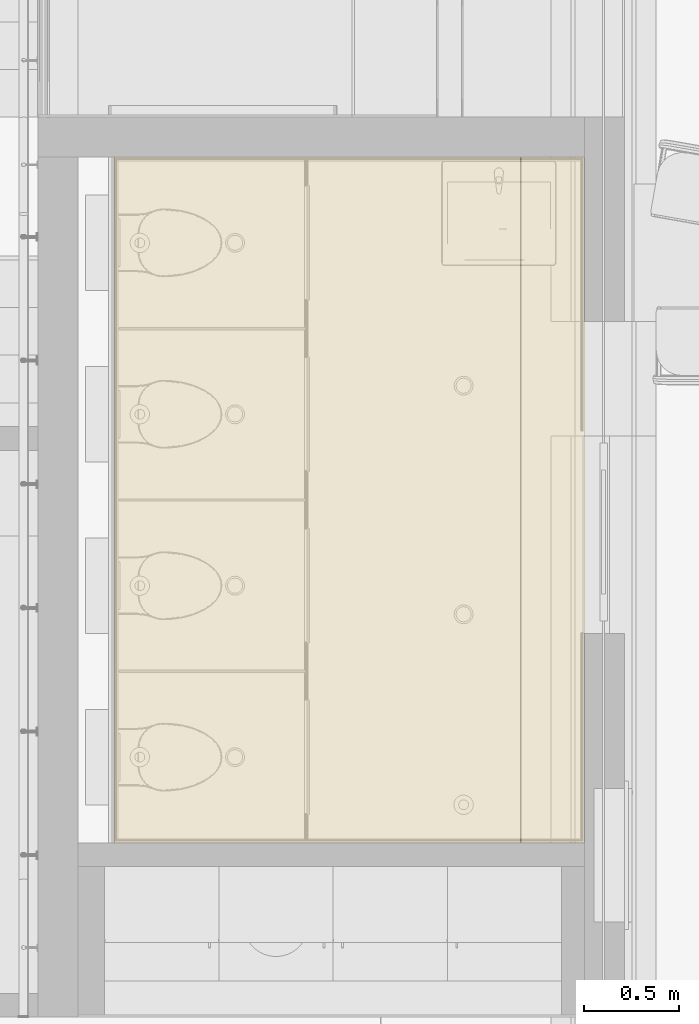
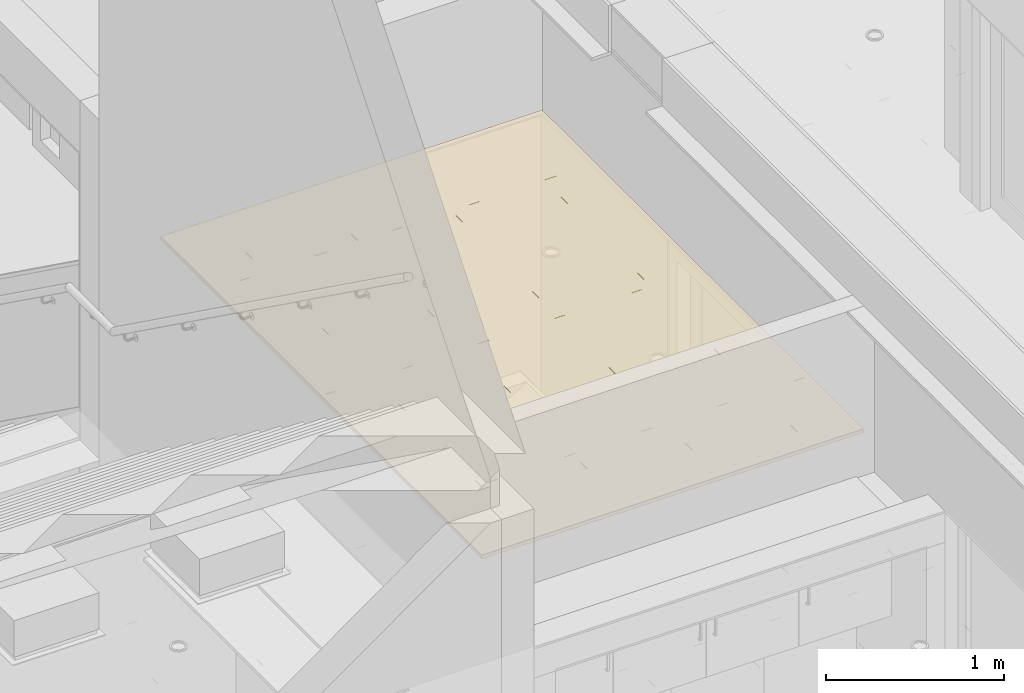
# One storey, part 171 of 347: 1 covering.
"""IFC2X3 building model written with IfcOpenShell, lengths in millimetres."""

from ifc_helpers import new_model, entity, si_unit, converted_unit, derived_unit, money_unit, direction, frame, origin_with_axes, place, context, subcontext, project, spatial, faceted_brep, type_object, element, save


model = new_model("IFC2X3")

# Units and contexts
model_context = context("Model", 3, precision=0.01, world=origin_with_axes(), true_north=direction((0.0, 1.0)))
plan_context = context("Plan", 3, precision=0.01, world=origin_with_axes(), true_north=direction((0.0, 1.0)))
body_context = subcontext(model_context, "Body", "Model", "MODEL_VIEW")
ifc_project = project(units=[si_unit("LENGTHUNIT", "METRE", prefix="MILLI"), si_unit("AREAUNIT", "SQUARE_METRE"), si_unit("VOLUMEUNIT", "CUBIC_METRE"), converted_unit("PLANEANGLEUNIT", "DEGREE", entity("IfcPlaneAngleMeasure", 0.0174532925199), si_unit("PLANEANGLEUNIT", "RADIAN"), dimensions=[0, 0, 0, 0, 0, 0, 0]), money_unit("EUR"), converted_unit("TIMEUNIT", "Year", entity("IfcTimeMeasure", 31556926.0), si_unit("TIMEUNIT", "SECOND"), dimensions=[0, 0, 1, 0, 0, 0, 0]), si_unit("MASSUNIT", "GRAM", prefix="KILO"), si_unit("THERMODYNAMICTEMPERATUREUNIT", "DEGREE_CELSIUS"), si_unit("LUMINOUSINTENSITYUNIT", "LUMEN"), si_unit("ENERGYUNIT", "JOULE", prefix="MEGA"), derived_unit("THERMALCONDUCTANCEUNIT", [(si_unit("POWERUNIT", "WATT"), 1), (si_unit("LENGTHUNIT", "METRE"), -1), (si_unit("THERMODYNAMICTEMPERATUREUNIT", "KELVIN"), -1)]), derived_unit("SPECIFICHEATCAPACITYUNIT", [(si_unit("ENERGYUNIT", "JOULE"), 1), (si_unit("MASSUNIT", "GRAM", prefix="KILO"), -1), (si_unit("THERMODYNAMICTEMPERATUREUNIT", "KELVIN"), -1)]), derived_unit("MASSDENSITYUNIT", [(si_unit("MASSUNIT", "GRAM", prefix="KILO"), 1), (si_unit("VOLUMEUNIT", "CUBIC_METRE"), -1)])], contexts=[model_context, plan_context])

# Site, building, storey
site_placement = place(None, origin_with_axes())
site = spatial("IfcSite", under=ifc_project, at=site_placement, Name="Site", CompositionType="ELEMENT")
building_placement = place(site_placement, origin_with_axes())
building = spatial("IfcBuilding", under=site, at=building_placement, Name="Naam gebouw", CompositionType="ELEMENT")
storey_placement = place(building_placement, origin_with_axes())
storey = spatial("IfcBuildingStorey", under=building, at=storey_placement, Name="begane grond", CompositionType="ELEMENT", Elevation=0.0)

# Covering
covering_type = type_object("IfcCoveringType", Name="Ceiling Editor INT_v2.01", PredefinedType="CEILING")
covering_placement = place(storey_placement, frame((41975.0, 30989.9999277, 2600.0), z_axis=(0.0, 0.0, 1.0), x_axis=(1.0, 0.0, 0.0)))
element("IfcCovering", 1, at=covering_placement, inside=storey, type_object=covering_type, Name="45 Plafondafwerkingen_77 garderobe", PredefinedType="CEILING", context=body_context, shape_type="Brep", body=[
    faceted_brep([(0.0, 0.0, 20.0), (334.9, 0.0, 20.0), (334.9, 599.89982335, 20.0), (0.0, 599.89982335, 20.0), (0.0, 0.0, 0.0), (334.9, 0.0, 0.0), (334.9, 599.89982335, 0.0), (0.0, 599.89982335, 0.0)], [[[0, 1, 2, 3]], [[1, 0, 4, 5]], [[1, 5, 6, 2]], [[7, 3, 2, 6]], [[3, 7, 4, 0]], [[4, 7, 6, 5]]]),
    faceted_brep([(0.0, 1799.89982335, 0.0), (0.0, 1799.89982335, 20.0), (334.9, 1799.89982335, 20.0), (334.9, 1799.89982335, 0.0), (0.0, 900.000018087, 0.0), (0.0, 900.000018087, 20.0), (0.0, 600.09982335, 20.0), (334.9, 600.09982335, 20.0), (334.9, 600.09982335, 0.0), (0.0, 600.09982335, 0.0)], [[[0, 1, 2, 3]], [[1, 0, 4, 5]], [[5, 6, 7, 2, 1]], [[7, 8, 3, 2]], [[4, 0, 3, 8, 9]], [[6, 5, 4, 9]], [[6, 9, 8, 7]]]),
    faceted_brep([(0.0, 2999.89982335, 0.0), (0.0, 2999.89982335, 20.0), (334.9, 2999.89982335, 20.0), (334.9, 2999.89982335, 0.0), (0.0, 2700.00005426, 0.0), (0.0, 2700.00005426, 20.0), (0.0, 1800.09982335, 20.0), (334.9, 1800.09982335, 20.0), (334.9, 1800.09982335, 0.0), (0.0, 1800.09982335, 0.0)], [[[0, 1, 2, 3]], [[1, 0, 4, 5]], [[5, 6, 7, 2, 1]], [[7, 8, 3, 2]], [[4, 0, 3, 8, 9]], [[6, 5, 4, 9]], [[6, 9, 8, 7]]]),
    faceted_brep([(334.9, 3600.00007235, 0.0), (334.9, 3600.00007235, 20.0), (334.9, 3000.09982335, 20.0), (334.9, 3000.09982335, 0.0), (0.0, 3600.00007235, 0.0), (0.0, 3600.00007235, 20.0), (0.0, 3000.09982335, 20.0), (0.0, 3000.09982335, 0.0)], [[[0, 1, 2, 3]], [[1, 0, 4, 5]], [[5, 6, 2, 1]], [[6, 7, 3, 2]], [[4, 0, 3, 7]], [[6, 5, 4, 7]]]),
    faceted_brep([(617.5, 0.0, 20.0), (934.9, 0.0, 20.0), (934.9, 599.89982335, 20.0), (335.1, 599.89982335, 20.0), (335.1, 0.0, 20.0), (617.5, 0.0, 0.0), (934.9, 0.0, 0.0), (934.9, 599.89982335, 0.0), (335.1, 599.89982335, 0.0), (335.1, 0.0, 0.0)], [[[0, 1, 2, 3, 4]], [[1, 0, 5, 6]], [[1, 6, 7, 2]], [[2, 7, 8, 3]], [[9, 4, 3, 8]], [[0, 4, 9, 5]], [[5, 9, 8, 7, 6]]]),
    faceted_brep([(934.9, 600.09982335, 20.0), (934.9, 600.09982335, 0.0), (934.9, 1799.89982335, 0.0), (934.9, 1799.89982335, 20.0), (335.1, 600.09982335, 20.0), (335.1, 600.09982335, 0.0), (335.1, 1799.89982335, 0.0), (335.1, 1799.89982335, 20.0)], [[[0, 1, 2, 3]], [[4, 5, 1, 0]], [[2, 1, 5, 6]], [[3, 2, 6, 7]], [[4, 0, 3, 7]], [[7, 6, 5, 4]]]),
    faceted_brep([(934.9, 1800.09982335, 20.0), (934.9, 1800.09982335, 0.0), (934.9, 2999.89982335, 0.0), (934.9, 2999.89982335, 20.0), (335.1, 1800.09982335, 20.0), (335.1, 1800.09982335, 0.0), (335.1, 2999.89982335, 0.0), (335.1, 2999.89982335, 20.0)], [[[0, 1, 2, 3]], [[4, 5, 1, 0]], [[2, 1, 5, 6]], [[3, 2, 6, 7]], [[4, 0, 3, 7]], [[7, 6, 5, 4]]]),
    faceted_brep([(934.9, 3600.00007235, 0.0), (934.9, 3600.00007235, 20.0), (934.9, 3000.09982335, 20.0), (934.9, 3000.09982335, 0.0), (617.5, 3600.00007235, 0.0), (617.5, 3600.00007235, 20.0), (335.1, 3600.00007235, 20.0), (335.1, 3000.09982335, 20.0), (335.1, 3000.09982335, 0.0), (335.1, 3600.00007235, 0.0)], [[[0, 1, 2, 3]], [[1, 0, 4, 5]], [[5, 6, 7, 2, 1]], [[7, 8, 3, 2]], [[4, 0, 3, 8, 9]], [[6, 5, 4, 9]], [[6, 9, 8, 7]]]),
    faceted_brep([(1235.0, 0.0, 20.0), (1534.9, 0.0, 20.0), (1534.9, 599.89982335, 20.0), (935.1, 599.89982335, 20.0), (935.1, 0.0, 20.0), (1235.0, 0.0, 0.0), (1534.9, 0.0, 0.0), (1534.9, 599.89982335, 0.0), (935.1, 599.89982335, 0.0), (935.1, 0.0, 0.0)], [[[0, 1, 2, 3, 4]], [[1, 0, 5, 6]], [[1, 6, 7, 2]], [[2, 7, 8, 3]], [[9, 4, 3, 8]], [[0, 4, 9, 5]], [[5, 9, 8, 7, 6]]]),
    faceted_brep([(1534.9, 600.09982335, 20.0), (1534.9, 600.09982335, 0.0), (1534.9, 1799.89982335, 0.0), (1534.9, 1799.89982335, 20.0), (935.1, 600.09982335, 20.0), (935.1, 600.09982335, 0.0), (935.1, 1799.89982335, 0.0), (935.1, 1799.89982335, 20.0)], [[[0, 1, 2, 3]], [[4, 5, 1, 0]], [[2, 1, 5, 6]], [[3, 2, 6, 7]], [[4, 0, 3, 7]], [[7, 6, 5, 4]]]),
    faceted_brep([(1534.9, 1800.09982335, 20.0), (1534.9, 1800.09982335, 0.0), (1534.9, 2999.89982335, 0.0), (1534.9, 2999.89982335, 20.0), (935.1, 1800.09982335, 20.0), (935.1, 1800.09982335, 0.0), (935.1, 2999.89982335, 0.0), (935.1, 2999.89982335, 20.0)], [[[0, 1, 2, 3]], [[4, 5, 1, 0]], [[2, 1, 5, 6]], [[3, 2, 6, 7]], [[4, 0, 3, 7]], [[7, 6, 5, 4]]]),
    faceted_brep([(1534.9, 3600.00007235, 0.0), (1534.9, 3600.00007235, 20.0), (1534.9, 3000.09982335, 20.0), (1534.9, 3000.09982335, 0.0), (1235.0, 3600.00007235, 0.0), (1235.0, 3600.00007235, 20.0), (935.1, 3600.00007235, 20.0), (935.1, 3000.09982335, 20.0), (935.1, 3000.09982335, 0.0), (935.1, 3600.00007235, 0.0)], [[[0, 1, 2, 3]], [[1, 0, 4, 5]], [[5, 6, 7, 2, 1]], [[7, 8, 3, 2]], [[4, 0, 3, 8, 9]], [[6, 5, 4, 9]], [[6, 9, 8, 7]]]),
    faceted_brep([(1852.5, 0.0, 20.0), (2134.9, 0.0, 20.0), (2134.9, 599.89982335, 20.0), (1535.1, 599.89982335, 20.0), (1535.1, 0.0, 20.0), (1852.5, 0.0, 0.0), (2134.9, 0.0, 0.0), (2134.9, 599.89982335, 0.0), (1535.1, 599.89982335, 0.0), (1535.1, 0.0, 0.0)], [[[0, 1, 2, 3, 4]], [[1, 0, 5, 6]], [[1, 6, 7, 2]], [[2, 7, 8, 3]], [[9, 4, 3, 8]], [[0, 4, 9, 5]], [[5, 9, 8, 7, 6]]]),
    faceted_brep([(2134.9, 600.09982335, 20.0), (2134.9, 600.09982335, 0.0), (2134.9, 1799.89982335, 0.0), (2134.9, 1799.89982335, 20.0), (1535.1, 600.09982335, 20.0), (1535.1, 600.09982335, 0.0), (1535.1, 1799.89982335, 0.0), (1535.1, 1799.89982335, 20.0)], [[[0, 1, 2, 3]], [[4, 5, 1, 0]], [[2, 1, 5, 6]], [[3, 2, 6, 7]], [[4, 0, 3, 7]], [[7, 6, 5, 4]]]),
    faceted_brep([(2134.9, 1800.09982335, 20.0), (2134.9, 1800.09982335, 0.0), (2134.9, 2999.89982335, 0.0), (2134.9, 2999.89982335, 20.0), (1535.1, 1800.09982335, 20.0), (1535.1, 1800.09982335, 0.0), (1535.1, 2999.89982335, 0.0), (1535.1, 2999.89982335, 20.0)], [[[0, 1, 2, 3]], [[4, 5, 1, 0]], [[2, 1, 5, 6]], [[3, 2, 6, 7]], [[4, 0, 3, 7]], [[7, 6, 5, 4]]]),
    faceted_brep([(2134.9, 3600.00007235, 0.0), (2134.9, 3600.00007235, 20.0), (2134.9, 3000.09982335, 20.0), (2134.9, 3000.09982335, 0.0), (1852.5, 3600.00007235, 0.0), (1852.5, 3600.00007235, 20.0), (1535.1, 3600.00007235, 20.0), (1535.1, 3000.09982335, 20.0), (1535.1, 3000.09982335, 0.0), (1535.1, 3600.00007235, 0.0)], [[[0, 1, 2, 3]], [[1, 0, 4, 5]], [[5, 6, 7, 2, 1]], [[7, 8, 3, 2]], [[4, 0, 3, 8, 9]], [[6, 5, 4, 9]], [[6, 9, 8, 7]]]),
    faceted_brep([(2470.0, 0.0, 20.0), (2470.0, 599.89982335, 20.0), (2135.1, 599.89982335, 20.0), (2135.1, 0.0, 20.0), (2470.0, 0.0, 0.0), (2470.0, 599.89982335, 0.0), (2135.1, 599.89982335, 0.0), (2135.1, 0.0, 0.0)], [[[0, 1, 2, 3]], [[1, 0, 4, 5]], [[1, 5, 6, 2]], [[7, 3, 2, 6]], [[0, 3, 7, 4]], [[4, 7, 6, 5]]]),
    faceted_brep([(2470.0, 900.000018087, 20.0), (2470.0, 1799.89982335, 20.0), (2135.1, 1799.89982335, 20.0), (2135.1, 600.09982335, 20.0), (2470.0, 600.09982335, 20.0), (2470.0, 900.000018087, 0.0), (2470.0, 1799.89982335, 0.0), (2135.1, 1799.89982335, 0.0), (2135.1, 600.09982335, 0.0), (2470.0, 600.09982335, 0.0)], [[[0, 1, 2, 3, 4]], [[1, 0, 5, 6]], [[1, 6, 7, 2]], [[2, 7, 8, 3]], [[9, 4, 3, 8]], [[0, 4, 9, 5]], [[5, 9, 8, 7, 6]]]),
    faceted_brep([(2470.0, 2700.00005426, 20.0), (2470.0, 2999.89982335, 20.0), (2135.1, 2999.89982335, 20.0), (2135.1, 1800.09982335, 20.0), (2470.0, 1800.09982335, 20.0), (2470.0, 2700.00005426, 0.0), (2470.0, 2999.89982335, 0.0), (2135.1, 2999.89982335, 0.0), (2135.1, 1800.09982335, 0.0), (2470.0, 1800.09982335, 0.0)], [[[0, 1, 2, 3, 4]], [[1, 0, 5, 6]], [[1, 6, 7, 2]], [[2, 7, 8, 3]], [[9, 4, 3, 8]], [[0, 4, 9, 5]], [[5, 9, 8, 7, 6]]]),
    faceted_brep([(2470.0, 3000.09982335, 20.0), (2470.0, 3600.00007235, 20.0), (2135.1, 3600.00007235, 20.0), (2135.1, 3000.09982335, 20.0), (2470.0, 3000.09982335, 0.0), (2470.0, 3600.00007235, 0.0), (2135.1, 3600.00007235, 0.0), (2135.1, 3000.09982335, 0.0)], [[[0, 1, 2, 3]], [[1, 0, 4, 5]], [[2, 1, 5, 6]], [[2, 6, 7, 3]], [[4, 0, 3, 7]], [[5, 4, 7, 6]]]),
    faceted_brep([(2470.0, 0.0, 0.0), (2470.0, 0.0, -5.0), (2470.0, 587.49982335, -5.0), (2470.0, 612.49982335, -5.0), (2470.0, 1787.49982335, -5.0), (2470.0, 1800.00003617, -5.0), (2470.0, 1800.00003617, 0.0), (2470.0, 1787.49982335, 0.0), (2470.0, 612.49982335, 0.0), (2470.0, 587.49982335, 0.0), (947.5, 0.0, -5.0), (1522.5, 0.0, -5.0), (1547.5, 0.0, -5.0), (2122.5, 0.0, -5.0), (2147.5, 0.0, -5.0), (2147.5, 0.0, 0.0), (2122.5, 0.0, 0.0), (1547.5, 0.0, 0.0), (1522.5, 0.0, 0.0), (947.5, 0.0, 0.0), (922.5, 0.0, 0.0), (347.5, 0.0, 0.0), (322.5, 0.0, 0.0), (0.0, 0.0, 0.0), (0.0, 0.0, -5.0), (322.5, 0.0, -5.0), (347.5, 0.0, -5.0), (922.5, 0.0, -5.0), (0.0, 587.49982335, -5.0), (0.0, 612.49982335, -5.0), (0.0, 1787.49982335, -5.0), (0.0, 1800.00003617, -5.0), (0.0, 1812.49982335, -5.0), (0.0, 2987.49982335, -5.0), (0.0, 3012.49982335, -5.0), (0.0, 3600.00007235, -5.0), (322.5, 3600.00007235, -5.0), (347.5, 3600.00007235, -5.0), (922.5, 3600.00007235, -5.0), (947.5, 3600.00007235, -5.0), (1522.5, 3600.00007235, -5.0), (1547.5, 3600.00007235, -5.0), (2122.5, 3600.00007235, -5.0), (2147.5, 3600.00007235, -5.0), (2470.0, 3600.00007235, -5.0), (2470.0, 3012.49982335, -5.0), (2470.0, 2987.49982335, -5.0), (2470.0, 1812.49982335, -5.0), (922.5, 612.49982335, -5.0), (922.5, 1787.49982335, -5.0), (347.5, 1787.49982335, -5.0), (347.5, 612.49982335, -5.0), (947.5, 1812.49982335, -5.0), (1522.5, 1812.49982335, -5.0), (1522.5, 2987.49982335, -5.0), (947.5, 2987.49982335, -5.0), (1547.5, 1812.49982335, -5.0), (2122.5, 1812.49982335, -5.0), (2122.5, 2987.49982335, -5.0), (1547.5, 2987.49982335, -5.0), (347.5, 1812.49982335, -5.0), (922.5, 1812.49982335, -5.0), (922.5, 2987.49982335, -5.0), (347.5, 2987.49982335, -5.0), (1522.5, 612.49982335, -5.0), (1522.5, 1787.49982335, -5.0), (947.5, 1787.49982335, -5.0), (947.5, 612.49982335, -5.0), (2122.5, 612.49982335, -5.0), (2122.5, 1787.49982335, -5.0), (1547.5, 1787.49982335, -5.0), (1547.5, 612.49982335, -5.0), (25.0, 587.49982335, -5.0), (25.0, 25.0, -5.0), (322.5, 25.0, -5.0), (322.5, 587.49982335, -5.0), (25.0, 1787.49982335, -5.0), (25.0, 612.49982335, -5.0), (322.5, 612.49982335, -5.0), (322.5, 1787.49982335, -5.0), (25.0, 2987.49982335, -5.0), (25.0, 1812.49982335, -5.0), (322.5, 1812.49982335, -5.0), (322.5, 2987.49982335, -5.0), (322.5, 3575.00007235, -5.0), (25.0, 3575.00007235, -5.0), (25.0, 3012.49982335, -5.0), (322.5, 3012.49982335, -5.0), (922.5, 3575.00007235, -5.0), (347.5, 3575.00007235, -5.0), (347.5, 3012.49982335, -5.0), (922.5, 3012.49982335, -5.0), (1522.5, 3575.00007235, -5.0), (947.5, 3575.00007235, -5.0), (947.5, 3012.49982335, -5.0), (1522.5, 3012.49982335, -5.0), (2122.5, 3575.00007235, -5.0), (1547.5, 3575.00007235, -5.0), (1547.5, 3012.49982335, -5.0), (2122.5, 3012.49982335, -5.0), (2445.0, 3575.00007235, -5.0), (2147.5, 3575.00007235, -5.0), (2147.5, 3012.49982335, -5.0), (2445.0, 3012.49982335, -5.0), (2445.0, 2987.49982335, -5.0), (2147.5, 2987.49982335, -5.0), (2147.5, 1812.49982335, -5.0), (2445.0, 1812.49982335, -5.0), (2445.0, 1787.49982335, -5.0), (2147.5, 1787.49982335, -5.0), (2147.5, 612.49982335, -5.0), (2445.0, 612.49982335, -5.0), (2445.0, 25.0, -5.0), (2445.0, 587.49982335, -5.0), (2147.5, 587.49982335, -5.0), (2147.5, 25.0, -5.0), (2122.5, 25.0, -5.0), (2122.5, 587.49982335, -5.0), (1547.5, 587.49982335, -5.0), (1547.5, 25.0, -5.0), (922.5, 25.0, -5.0), (922.5, 587.49982335, -5.0), (347.5, 587.49982335, -5.0), (347.5, 25.0, -5.0), (1522.5, 25.0, -5.0), (1522.5, 587.49982335, -5.0), (947.5, 587.49982335, -5.0), (947.5, 25.0, -5.0), (2470.0, 3600.00007235, 0.0), (2470.0, 3012.49982335, 0.0), (2470.0, 2987.49982335, 0.0), (2470.0, 1812.49982335, 0.0), (2147.5, 3600.00007235, 0.0), (2122.5, 3600.00007235, 0.0), (1547.5, 3600.00007235, 0.0), (1522.5, 3600.00007235, 0.0), (947.5, 3600.00007235, 0.0), (922.5, 3600.00007235, 0.0), (347.5, 3600.00007235, 0.0), (322.5, 3600.00007235, 0.0), (0.0, 3600.00007235, 0.0), (0.0, 3012.49982335, 0.0), (0.0, 2987.49982335, 0.0), (0.0, 1812.49982335, 0.0), (0.0, 1800.00003617, 0.0), (0.0, 1787.49982335, 0.0), (0.0, 612.49982335, 0.0), (0.0, 587.49982335, 0.0), (347.5, 1787.49982335, 0.0), (922.5, 1787.49982335, 0.0), (922.5, 612.49982335, 0.0), (347.5, 612.49982335, 0.0), (1522.5, 2987.49982335, 0.0), (1522.5, 1812.49982335, 0.0), (947.5, 1812.49982335, 0.0), (947.5, 2987.49982335, 0.0), (1547.5, 1787.49982335, 0.0), (2122.5, 1787.49982335, 0.0), (2122.5, 612.49982335, 0.0), (1547.5, 612.49982335, 0.0), (922.5, 2987.49982335, 0.0), (922.5, 1812.49982335, 0.0), (347.5, 1812.49982335, 0.0), (347.5, 2987.49982335, 0.0), (947.5, 1787.49982335, 0.0), (1522.5, 1787.49982335, 0.0), (1522.5, 612.49982335, 0.0), (947.5, 612.49982335, 0.0), (2122.5, 2987.49982335, 0.0), (2122.5, 1812.49982335, 0.0), (1547.5, 1812.49982335, 0.0), (1547.5, 2987.49982335, 0.0), (25.0, 587.49982335, 0.0), (322.5, 587.49982335, 0.0), (322.5, 25.0, 0.0), (25.0, 25.0, 0.0), (25.0, 1787.49982335, 0.0), (322.5, 1787.49982335, 0.0), (322.5, 612.49982335, 0.0), (25.0, 612.49982335, 0.0), (25.0, 2987.49982335, 0.0), (322.5, 2987.49982335, 0.0), (322.5, 1812.49982335, 0.0), (25.0, 1812.49982335, 0.0), (322.5, 3575.00007235, 0.0), (322.5, 3012.49982335, 0.0), (25.0, 3012.49982335, 0.0), (25.0, 3575.00007235, 0.0), (922.5, 3575.00007235, 0.0), (922.5, 3012.49982335, 0.0), (347.5, 3012.49982335, 0.0), (347.5, 3575.00007235, 0.0), (1522.5, 3575.00007235, 0.0), (1522.5, 3012.49982335, 0.0), (947.5, 3012.49982335, 0.0), (947.5, 3575.00007235, 0.0), (2122.5, 3575.00007235, 0.0), (2122.5, 3012.49982335, 0.0), (1547.5, 3012.49982335, 0.0), (1547.5, 3575.00007235, 0.0), (2445.0, 3575.00007235, 0.0), (2445.0, 3012.49982335, 0.0), (2147.5, 3012.49982335, 0.0), (2147.5, 3575.00007235, 0.0), (2445.0, 1812.49982335, 0.0), (2147.5, 1812.49982335, 0.0), (2147.5, 2987.49982335, 0.0), (2445.0, 2987.49982335, 0.0), (2445.0, 612.49982335, 0.0), (2147.5, 612.49982335, 0.0), (2147.5, 1787.49982335, 0.0), (2445.0, 1787.49982335, 0.0), (2445.0, 25.0, 0.0), (2147.5, 25.0, 0.0), (2147.5, 587.49982335, 0.0), (2445.0, 587.49982335, 0.0), (1547.5, 25.0, 0.0), (1547.5, 587.49982335, 0.0), (2122.5, 587.49982335, 0.0), (2122.5, 25.0, 0.0), (922.5, 25.0, 0.0), (347.5, 25.0, 0.0), (347.5, 587.49982335, 0.0), (922.5, 587.49982335, 0.0), (947.5, 25.0, 0.0), (947.5, 587.49982335, 0.0), (1522.5, 587.49982335, 0.0), (1522.5, 25.0, 0.0)], [[[0, 1, 2, 3, 4, 5, 6, 7, 8, 9]], [[10, 11, 12, 13, 14, 1, 0, 15, 16, 17, 18, 19, 20, 21, 22, 23, 24, 25, 26, 27]], [[10, 27, 26, 25, 24, 28, 29, 30, 31, 32, 33, 34, 35, 36, 37, 38, 39, 40, 41, 42, 43, 44, 45, 46, 47, 5, 4, 3, 2, 1, 14, 13, 12, 11], [48, 49, 50, 51], [52, 53, 54, 55], [56, 57, 58, 59], [60, 61, 62, 63], [64, 65, 66, 67], [68, 69, 70, 71], [72, 73, 74, 75], [76, 77, 78, 79], [80, 81, 82, 83], [84, 85, 86, 87], [88, 89, 90, 91], [92, 93, 94, 95], [96, 97, 98, 99], [100, 101, 102, 103], [104, 105, 106, 107], [108, 109, 110, 111], [112, 113, 114, 115], [116, 117, 118, 119], [120, 121, 122, 123], [124, 125, 126, 127]], [[47, 46, 45, 44, 128, 129, 130, 131, 6, 5]], [[18, 17, 16, 15, 0, 9, 8, 7, 6, 131, 130, 129, 128, 132, 133, 134, 135, 136, 137, 138, 139, 140, 141, 142, 143, 144, 145, 146, 147, 23, 22, 21, 20, 19], [148, 149, 150, 151], [152, 153, 154, 155], [156, 157, 158, 159], [160, 161, 162, 163], [164, 165, 166, 167], [168, 169, 170, 171], [172, 173, 174, 175], [176, 177, 178, 179], [180, 181, 182, 183], [184, 185, 186, 187], [188, 189, 190, 191], [192, 193, 194, 195], [196, 197, 198, 199], [200, 201, 202, 203], [204, 205, 206, 207], [208, 209, 210, 211], [212, 213, 214, 215], [216, 217, 218, 219], [220, 221, 222, 223], [224, 225, 226, 227]], [[145, 144, 31, 30, 29, 28, 24, 23, 147, 146]], [[140, 35, 34, 33, 32, 31, 144, 143, 142, 141]], [[128, 44, 43, 42, 41, 40, 39, 38, 37, 36, 35, 140, 139, 138, 137, 136, 135, 134, 133, 132]], [[150, 149, 49, 48]], [[50, 49, 149, 148]], [[51, 50, 148, 151]], [[151, 150, 48, 51]], [[154, 153, 53, 52]], [[54, 53, 153, 152]], [[55, 54, 152, 155]], [[155, 154, 52, 55]], [[170, 169, 57, 56]], [[58, 57, 169, 168]], [[59, 58, 168, 171]], [[171, 170, 56, 59]], [[162, 161, 61, 60]], [[62, 61, 161, 160]], [[63, 62, 160, 163]], [[163, 162, 60, 63]], [[166, 165, 65, 64]], [[66, 65, 165, 164]], [[67, 66, 164, 167]], [[167, 166, 64, 67]], [[158, 157, 69, 68]], [[70, 69, 157, 156]], [[71, 70, 156, 159]], [[159, 158, 68, 71]], [[72, 172, 175, 73]], [[73, 175, 174, 74]], [[74, 174, 173, 75]], [[172, 72, 75, 173]], [[76, 176, 179, 77]], [[77, 179, 178, 78]], [[178, 177, 79, 78]], [[176, 76, 79, 177]], [[80, 180, 183, 81]], [[81, 183, 182, 82]], [[83, 82, 182, 181]], [[180, 80, 83, 181]], [[84, 184, 187, 85]], [[85, 187, 186, 86]], [[86, 186, 185, 87]], [[184, 84, 87, 185]], [[88, 188, 191, 89]], [[89, 191, 190, 90]], [[190, 189, 91, 90]], [[188, 88, 91, 189]], [[92, 192, 195, 93]], [[93, 195, 194, 94]], [[194, 193, 95, 94]], [[192, 92, 95, 193]], [[96, 196, 199, 97]], [[97, 199, 198, 98]], [[198, 197, 99, 98]], [[196, 96, 99, 197]], [[100, 200, 203, 101]], [[101, 203, 202, 102]], [[201, 103, 102, 202]], [[200, 100, 103, 201]], [[104, 207, 206, 105]], [[206, 205, 106, 105]], [[204, 107, 106, 205]], [[204, 207, 104, 107]], [[108, 211, 210, 109]], [[110, 109, 210, 209]], [[208, 111, 110, 209]], [[208, 211, 108, 111]], [[112, 212, 215, 113]], [[113, 215, 214, 114]], [[213, 115, 114, 214]], [[212, 112, 115, 213]], [[116, 219, 218, 117]], [[118, 117, 218, 217]], [[216, 119, 118, 217]], [[216, 219, 116, 119]], [[120, 220, 223, 121]], [[122, 121, 223, 222]], [[221, 123, 122, 222]], [[220, 120, 123, 221]], [[124, 227, 226, 125]], [[126, 125, 226, 225]], [[224, 127, 126, 225]], [[224, 227, 124, 127]]]),
])

save(model, "model.ifc")
